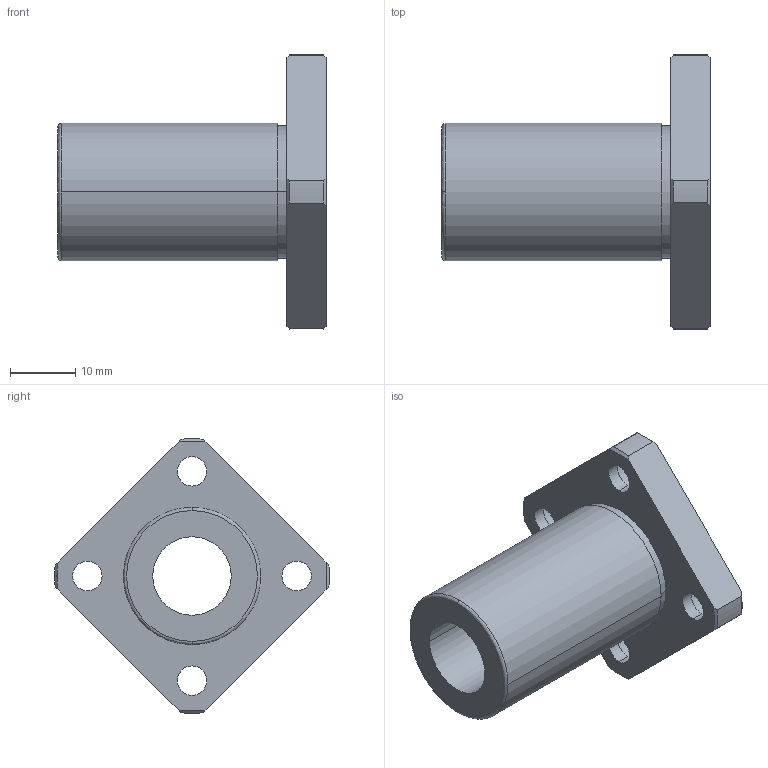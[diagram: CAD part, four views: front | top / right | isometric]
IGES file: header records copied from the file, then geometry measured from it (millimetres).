
Start section: 3D InterOp IGES (Version 21 0 1), Spatial Corp. Copyright (c) 1999-2007.
Global section: file name: NFES-12VM.igs; native system: Spatial Corp.; preprocessor: 3D InterOp GENERIC/IGES 3.0; author: Noname; organization: Noname; date: 20220308.101733; units: millimetre
Bounding box: 41 x 41.99 x 41.98 mm (x, y, z)
Surface area: 6777.1 mm2 (no closed solid volume)
Topology: 0 solids, 0 shells, 51 faces, 254 edges, 254 vertices
Faces by surface type: revolution 39, extrusion 12
